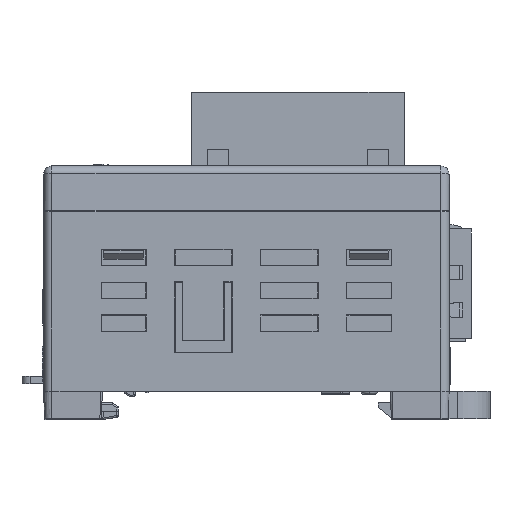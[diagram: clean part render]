
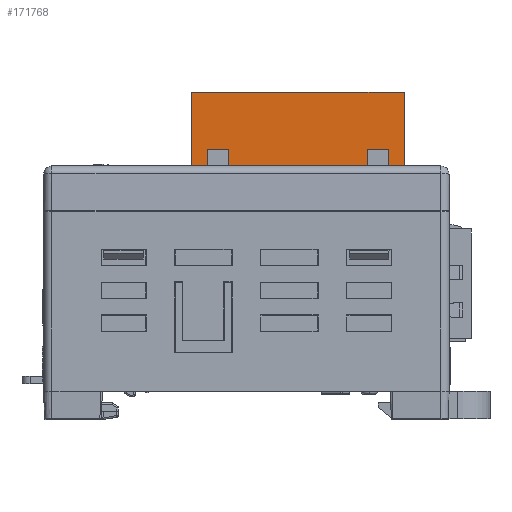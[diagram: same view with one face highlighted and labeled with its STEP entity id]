
A CAD part, left-side view. The second image highlights one B-rep face of the part: STEP entity #171768.
In plain terms, the highlighted planar face has unit normal (-1, 0, 0).
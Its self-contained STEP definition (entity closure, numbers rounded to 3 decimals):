
#428=DIRECTION('',(0.,0.,-1.));
#429=VECTOR('',#428,12.5);
#430=CARTESIAN_POINT('',(-13.22,-19.25,40.));
#431=LINE('',#430,#429);
#1408=DIRECTION('',(0.,1.,0.));
#1409=VECTOR('',#1408,1.);
#1410=CARTESIAN_POINT('',(-13.22,-19.25,27.5));
#1411=LINE('',#1410,#1409);
#1424=DIRECTION('',(0.,1.,0.));
#1425=VECTOR('',#1424,1.);
#1426=CARTESIAN_POINT('',(-13.22,-13.3,27.5));
#1427=LINE('',#1426,#1425);
#1440=DIRECTION('',(0.,1.,0.));
#1441=VECTOR('',#1440,1.);
#1442=CARTESIAN_POINT('',(-13.22,-6.8,27.5));
#1443=LINE('',#1442,#1441);
#1456=DIRECTION('',(0.,1.,0.));
#1457=VECTOR('',#1456,1.);
#1458=CARTESIAN_POINT('',(-13.22,-0.3,27.5));
#1459=LINE('',#1458,#1457);
#1472=DIRECTION('',(0.,1.,0.));
#1473=VECTOR('',#1472,1.);
#1474=CARTESIAN_POINT('',(-13.22,5.65,27.5));
#1475=LINE('',#1474,#1473);
#49285=DIRECTION('',(0.,-1.,0.));
#49286=VECTOR('',#49285,0.9);
#49287=CARTESIAN_POINT('',(-13.22,-17.35,28.));
#49288=LINE('',#49287,#49286);
#49289=DIRECTION('',(0.,-1.,0.));
#49290=VECTOR('',#49289,2.6);
#49291=CARTESIAN_POINT('',(-13.22,-14.75,33.));
#49292=LINE('',#49291,#49290);
#49293=DIRECTION('',(0.,0.,1.));
#49294=VECTOR('',#49293,5.);
#49295=CARTESIAN_POINT('',(-13.22,-14.75,28.));
#49296=LINE('',#49295,#49294);
#49297=DIRECTION('',(0.,-1.,0.));
#49298=VECTOR('',#49297,1.45);
#49299=CARTESIAN_POINT('',(-13.22,-13.3,28.));
#49300=LINE('',#49299,#49298);
#49301=DIRECTION('',(0.,-1.,0.));
#49302=VECTOR('',#49301,5.5);
#49303=CARTESIAN_POINT('',(-13.22,-6.8,28.));
#49304=LINE('',#49303,#49302);
#49305=DIRECTION('',(0.,-1.,0.));
#49306=VECTOR('',#49305,5.5);
#49307=CARTESIAN_POINT('',(-13.22,-0.3,28.));
#49308=LINE('',#49307,#49306);
#49309=DIRECTION('',(0.,-1.,0.));
#49310=VECTOR('',#49309,1.45);
#49311=CARTESIAN_POINT('',(-13.22,2.15,28.));
#49312=LINE('',#49311,#49310);
#49313=DIRECTION('',(0.,-1.,0.));
#49314=VECTOR('',#49313,0.9);
#49315=CARTESIAN_POINT('',(-13.22,5.65,28.));
#49316=LINE('',#49315,#49314);
#49325=DIRECTION('',(0.,0.,1.));
#49326=VECTOR('',#49325,0.5);
#49327=CARTESIAN_POINT('',(-13.22,-18.25,27.5));
#49328=LINE('',#49327,#49326);
#49337=DIRECTION('',(0.,0.,-1.));
#49338=VECTOR('',#49337,5.);
#49339=CARTESIAN_POINT('',(-13.22,-17.35,33.));
#49340=LINE('',#49339,#49338);
#49353=DIRECTION('',(0.,0.,-1.));
#49354=VECTOR('',#49353,0.5);
#49355=CARTESIAN_POINT('',(-13.22,-13.3,28.));
#49356=LINE('',#49355,#49354);
#49377=DIRECTION('',(0.,0.,1.));
#49378=VECTOR('',#49377,0.5);
#49379=CARTESIAN_POINT('',(-13.22,-12.3,27.5));
#49380=LINE('',#49379,#49378);
#49381=DIRECTION('',(0.,0.,-1.));
#49382=VECTOR('',#49381,0.5);
#49383=CARTESIAN_POINT('',(-13.22,-6.8,28.));
#49384=LINE('',#49383,#49382);
#49405=DIRECTION('',(0.,0.,1.));
#49406=VECTOR('',#49405,0.5);
#49407=CARTESIAN_POINT('',(-13.22,-5.8,27.5));
#49408=LINE('',#49407,#49406);
#49409=DIRECTION('',(0.,0.,-1.));
#49410=VECTOR('',#49409,0.5);
#49411=CARTESIAN_POINT('',(-13.22,-0.3,28.));
#49412=LINE('',#49411,#49410);
#49433=DIRECTION('',(0.,0.,1.));
#49434=VECTOR('',#49433,0.5);
#49435=CARTESIAN_POINT('',(-13.22,0.7,27.5));
#49436=LINE('',#49435,#49434);
#49437=DIRECTION('',(0.,0.,-1.));
#49438=VECTOR('',#49437,5.);
#49439=CARTESIAN_POINT('',(-13.22,2.15,33.));
#49440=LINE('',#49439,#49438);
#49461=DIRECTION('',(0.,0.,1.));
#49462=VECTOR('',#49461,5.);
#49463=CARTESIAN_POINT('',(-13.22,4.75,28.));
#49464=LINE('',#49463,#49462);
#49481=DIRECTION('',(0.,-1.,0.));
#49482=VECTOR('',#49481,2.6);
#49483=CARTESIAN_POINT('',(-13.22,4.75,33.));
#49484=LINE('',#49483,#49482);
#49489=DIRECTION('',(0.,0.,-1.));
#49490=VECTOR('',#49489,0.5);
#49491=CARTESIAN_POINT('',(-13.22,5.65,28.));
#49492=LINE('',#49491,#49490);
#49533=DIRECTION('',(0.,0.,1.));
#49534=VECTOR('',#49533,12.5);
#49535=CARTESIAN_POINT('',(-13.22,6.65,27.5));
#49536=LINE('',#49535,#49534);
#53187=DIRECTION('',(0.,-1.,0.));
#53188=VECTOR('',#53187,25.9);
#53189=CARTESIAN_POINT('',(-13.22,6.65,40.));
#53190=LINE('',#53189,#53188);
#61515=CARTESIAN_POINT('',(-13.22,-14.75,28.));
#61517=VERTEX_POINT('',#61515);
#61520=CARTESIAN_POINT('',(-13.22,-17.35,28.));
#61521=VERTEX_POINT('',#61520);
#61522=CARTESIAN_POINT('',(-13.22,-18.25,28.));
#61523=VERTEX_POINT('',#61522);
#61600=CARTESIAN_POINT('',(-13.22,5.65,28.));
#61601=VERTEX_POINT('',#61600);
#61602=CARTESIAN_POINT('',(-13.22,4.75,28.));
#61603=VERTEX_POINT('',#61602);
#61608=CARTESIAN_POINT('',(-13.22,2.15,28.));
#61609=VERTEX_POINT('',#61608);
#61610=CARTESIAN_POINT('',(-13.22,0.7,28.));
#61611=VERTEX_POINT('',#61610);
#61616=CARTESIAN_POINT('',(-13.22,-0.3,28.));
#61617=VERTEX_POINT('',#61616);
#61618=CARTESIAN_POINT('',(-13.22,-5.8,28.));
#61619=VERTEX_POINT('',#61618);
#61624=CARTESIAN_POINT('',(-13.22,-6.8,28.));
#61625=VERTEX_POINT('',#61624);
#61626=CARTESIAN_POINT('',(-13.22,-12.3,28.));
#61627=VERTEX_POINT('',#61626);
#61632=CARTESIAN_POINT('',(-13.22,-13.3,28.));
#61633=VERTEX_POINT('',#61632);
#62636=CARTESIAN_POINT('',(-13.22,-17.35,33.));
#62637=VERTEX_POINT('',#62636);
#62638=CARTESIAN_POINT('',(-13.22,-14.75,33.));
#62639=VERTEX_POINT('',#62638);
#62640=CARTESIAN_POINT('',(-13.22,2.15,33.));
#62641=VERTEX_POINT('',#62640);
#62642=CARTESIAN_POINT('',(-13.22,4.75,33.));
#62643=VERTEX_POINT('',#62642);
#62644=CARTESIAN_POINT('',(-13.22,6.65,40.));
#62645=CARTESIAN_POINT('',(-13.22,-19.25,40.));
#62646=VERTEX_POINT('',#62644);
#62647=VERTEX_POINT('',#62645);
#71960=CARTESIAN_POINT('',(-13.22,-19.25,27.5));
#71961=CARTESIAN_POINT('',(-13.22,-18.25,27.5));
#71962=VERTEX_POINT('',#71960);
#71963=VERTEX_POINT('',#71961);
#71964=CARTESIAN_POINT('',(-13.22,-13.3,27.5));
#71965=CARTESIAN_POINT('',(-13.22,-12.3,27.5));
#71966=VERTEX_POINT('',#71964);
#71967=VERTEX_POINT('',#71965);
#71968=CARTESIAN_POINT('',(-13.22,-6.8,27.5));
#71969=CARTESIAN_POINT('',(-13.22,-5.8,27.5));
#71970=VERTEX_POINT('',#71968);
#71971=VERTEX_POINT('',#71969);
#71972=CARTESIAN_POINT('',(-13.22,-0.3,27.5));
#71973=CARTESIAN_POINT('',(-13.22,0.7,27.5));
#71974=VERTEX_POINT('',#71972);
#71975=VERTEX_POINT('',#71973);
#71976=CARTESIAN_POINT('',(-13.22,5.65,27.5));
#71977=CARTESIAN_POINT('',(-13.22,6.65,27.5));
#71978=VERTEX_POINT('',#71976);
#71979=VERTEX_POINT('',#71977);
#171719=CARTESIAN_POINT('',(-13.22,-6.3,33.5));
#171720=DIRECTION('',(1.,0.,0.));
#171721=DIRECTION('',(0.,0.,-1.));
#171722=AXIS2_PLACEMENT_3D('',#171719,#171720,#171721);
#171723=PLANE('',#171722);
#171724=ORIENTED_EDGE('',*,*,#75039,.T.);
#171726=ORIENTED_EDGE('',*,*,#171725,.T.);
#171727=ORIENTED_EDGE('',*,*,#73391,.F.);
#171729=ORIENTED_EDGE('',*,*,#171728,.F.);
#171730=ORIENTED_EDGE('',*,*,#73344,.F.);
#171731=ORIENTED_EDGE('',*,*,#73365,.F.);
#171732=ORIENTED_EDGE('',*,*,#73503,.F.);
#171734=ORIENTED_EDGE('',*,*,#171733,.T.);
#171735=ORIENTED_EDGE('',*,*,#75048,.T.);
#171737=ORIENTED_EDGE('',*,*,#171736,.T.);
#171738=ORIENTED_EDGE('',*,*,#73495,.F.);
#171740=ORIENTED_EDGE('',*,*,#171739,.T.);
#171741=ORIENTED_EDGE('',*,*,#75058,.T.);
#171743=ORIENTED_EDGE('',*,*,#171742,.T.);
#171744=ORIENTED_EDGE('',*,*,#73487,.F.);
#171746=ORIENTED_EDGE('',*,*,#171745,.T.);
#171747=ORIENTED_EDGE('',*,*,#75068,.T.);
#171749=ORIENTED_EDGE('',*,*,#171748,.T.);
#171750=ORIENTED_EDGE('',*,*,#73479,.F.);
#171752=ORIENTED_EDGE('',*,*,#171751,.F.);
#171754=ORIENTED_EDGE('',*,*,#171753,.F.);
#171756=ORIENTED_EDGE('',*,*,#171755,.F.);
#171757=ORIENTED_EDGE('',*,*,#73471,.F.);
#171759=ORIENTED_EDGE('',*,*,#171758,.T.);
#171760=ORIENTED_EDGE('',*,*,#75078,.T.);
#171762=ORIENTED_EDGE('',*,*,#171761,.T.);
#171764=ORIENTED_EDGE('',*,*,#171763,.T.);
#171765=ORIENTED_EDGE('',*,*,#74208,.T.);
#171766=EDGE_LOOP('',(#171724,#171726,#171727,#171729,#171730,#171731,#171732,
#171734,#171735,#171737,#171738,#171740,#171741,#171743,#171744,#171746,#171747,
#171749,#171750,#171752,#171754,#171756,#171757,#171759,#171760,#171762,#171764,
#171765));
#171767=FACE_OUTER_BOUND('',#171766,.F.);
#171768=ADVANCED_FACE('',(#171767),#171723,.F.);
#73344=EDGE_CURVE('',#62639,#62637,#49292,.T.);
#73365=EDGE_CURVE('',#61517,#62639,#49296,.T.);
#73391=EDGE_CURVE('',#61521,#61523,#49288,.T.);
#73471=EDGE_CURVE('',#61601,#61603,#49316,.T.);
#73479=EDGE_CURVE('',#61609,#61611,#49312,.T.);
#73487=EDGE_CURVE('',#61617,#61619,#49308,.T.);
#73495=EDGE_CURVE('',#61625,#61627,#49304,.T.);
#73503=EDGE_CURVE('',#61633,#61517,#49300,.T.);
#74208=EDGE_CURVE('',#62647,#71962,#431,.T.);
#75039=EDGE_CURVE('',#71962,#71963,#1411,.T.);
#75048=EDGE_CURVE('',#71966,#71967,#1427,.T.);
#75058=EDGE_CURVE('',#71970,#71971,#1443,.T.);
#75068=EDGE_CURVE('',#71974,#71975,#1459,.T.);
#75078=EDGE_CURVE('',#71978,#71979,#1475,.T.);
#171725=EDGE_CURVE('',#71963,#61523,#49328,.T.);
#171728=EDGE_CURVE('',#62637,#61521,#49340,.T.);
#171733=EDGE_CURVE('',#61633,#71966,#49356,.T.);
#171736=EDGE_CURVE('',#71967,#61627,#49380,.T.);
#171739=EDGE_CURVE('',#61625,#71970,#49384,.T.);
#171742=EDGE_CURVE('',#71971,#61619,#49408,.T.);
#171745=EDGE_CURVE('',#61617,#71974,#49412,.T.);
#171748=EDGE_CURVE('',#71975,#61611,#49436,.T.);
#171751=EDGE_CURVE('',#62641,#61609,#49440,.T.);
#171753=EDGE_CURVE('',#62643,#62641,#49484,.T.);
#171755=EDGE_CURVE('',#61603,#62643,#49464,.T.);
#171758=EDGE_CURVE('',#61601,#71978,#49492,.T.);
#171761=EDGE_CURVE('',#71979,#62646,#49536,.T.);
#171763=EDGE_CURVE('',#62646,#62647,#53190,.T.);
